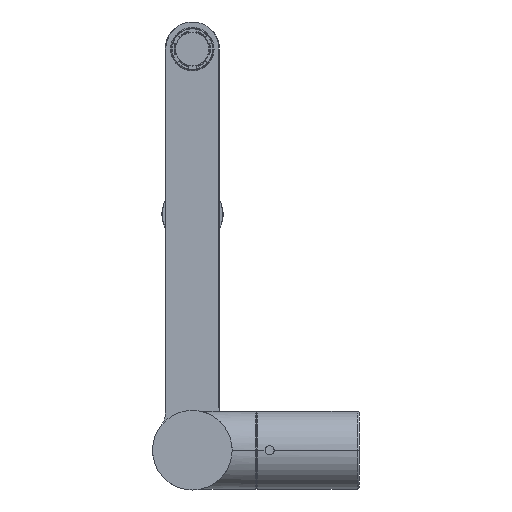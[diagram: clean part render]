
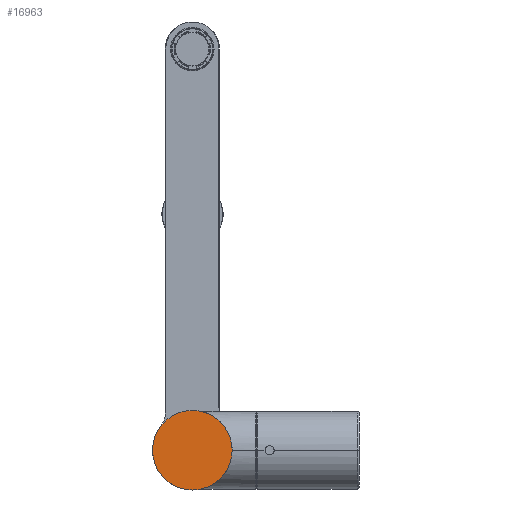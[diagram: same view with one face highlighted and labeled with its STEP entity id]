
A CAD part, front view. The second image highlights one B-rep face of the part: STEP entity #16963.
In plain terms, the highlighted planar face has unit normal (0, -1, 0).
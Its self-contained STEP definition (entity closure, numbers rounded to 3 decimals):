
#5353=CARTESIAN_POINT('',(0.,0.,0.));
#5354=DIRECTION('',(0.,-1.,0.));
#5355=DIRECTION('',(1.,0.,0.));
#5356=AXIS2_PLACEMENT_3D('',#5353,#5354,#5355);
#5587=CARTESIAN_POINT('',(0.,0.,0.));
#5588=DIRECTION('',(0.,1.,0.));
#5589=DIRECTION('',(1.,0.,0.));
#5590=AXIS2_PLACEMENT_3D('',#5587,#5588,#5589);
#6374=CARTESIAN_POINT('',(22.,0.,0.));
#6375=CARTESIAN_POINT('',(-22.,0.,0.));
#6376=VERTEX_POINT('',#6374);
#6377=VERTEX_POINT('',#6375);
#16954=CARTESIAN_POINT('',(0.,0.,0.));
#16955=DIRECTION('',(0.,1.,0.));
#16956=DIRECTION('',(1.,0.,0.));
#16957=AXIS2_PLACEMENT_3D('',#16954,#16955,#16956);
#16958=PLANE('',#16957);
#16959=ORIENTED_EDGE('',*,*,#16719,.F.);
#16960=ORIENTED_EDGE('',*,*,#16810,.T.);
#16961=EDGE_LOOP('',(#16959,#16960));
#16962=FACE_OUTER_BOUND('',#16961,.F.);
#5357=CIRCLE('',#5356,22.);
#5591=CIRCLE('',#5590,22.);
#16719=EDGE_CURVE('',#6376,#6377,#5357,.T.);
#16810=EDGE_CURVE('',#6376,#6377,#5591,.T.);
#16963=ADVANCED_FACE('',(#16962),#16958,.F.);
